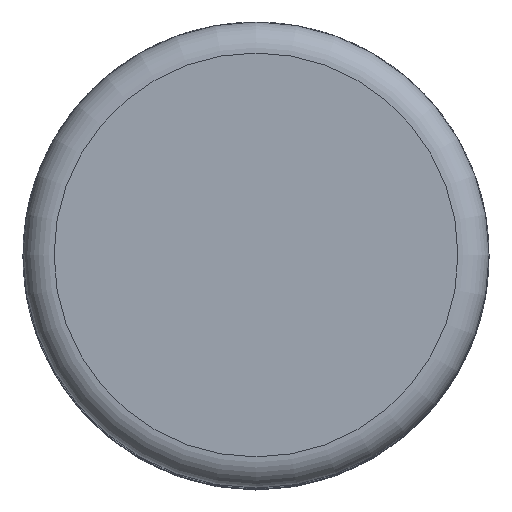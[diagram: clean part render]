
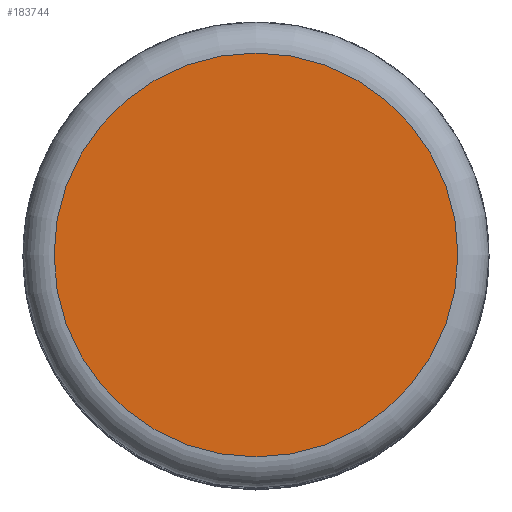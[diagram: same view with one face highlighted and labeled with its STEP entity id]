
A CAD part, top view. The second image highlights one B-rep face of the part: STEP entity #183744.
In plain terms, the highlighted planar face has unit normal (0, 0, 1).
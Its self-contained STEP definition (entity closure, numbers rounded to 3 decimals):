
#183585 = TOROIDAL_SURFACE('',#183586,5.2,0.8);
#183586 = AXIS2_PLACEMENT_3D('',#183587,#183588,#183589);
#183587 = CARTESIAN_POINT('',(0.,0.,29.2));
#183588 = DIRECTION('',(0.,0.,1.));
#183589 = DIRECTION('',(1.,0.,-0.));
#183695 = VERTEX_POINT('',#183696);
#183696 = CARTESIAN_POINT('',(5.2,0.,30.));
#183718 = EDGE_CURVE('',#183695,#183695,#183719,.T.);
#183719 = SURFACE_CURVE('',#183720,(#183725,#183732),.PCURVE_S1.);
#183720 = CIRCLE('',#183721,5.2);
#183721 = AXIS2_PLACEMENT_3D('',#183722,#183723,#183724);
#183722 = CARTESIAN_POINT('',(0.,0.,30.));
#183723 = DIRECTION('',(0.,0.,1.));
#183724 = DIRECTION('',(1.,0.,-0.));
#183725 = PCURVE('',#183585,#183726);
#183726 = DEFINITIONAL_REPRESENTATION('',(#183727),#183731);
#183727 = LINE('',#183728,#183729);
#183728 = CARTESIAN_POINT('',(0.,1.571));
#183729 = VECTOR('',#183730,1.);
#183730 = DIRECTION('',(1.,0.));
#183731 = ( GEOMETRIC_REPRESENTATION_CONTEXT(2) 
PARAMETRIC_REPRESENTATION_CONTEXT() REPRESENTATION_CONTEXT('2D SPACE',''
  ) );
#183732 = PCURVE('',#183733,#183738);
#183733 = PLANE('',#183734);
#183734 = AXIS2_PLACEMENT_3D('',#183735,#183736,#183737);
#183735 = CARTESIAN_POINT('',(0.,0.,30.));
#183736 = DIRECTION('',(0.,0.,1.));
#183737 = DIRECTION('',(1.,0.,-0.));
#183738 = DEFINITIONAL_REPRESENTATION('',(#183739),#183743);
#183739 = CIRCLE('',#183740,5.2);
#183740 = AXIS2_PLACEMENT_2D('',#183741,#183742);
#183741 = CARTESIAN_POINT('',(0.,0.));
#183742 = DIRECTION('',(1.,0.));
#183743 = ( GEOMETRIC_REPRESENTATION_CONTEXT(2) 
PARAMETRIC_REPRESENTATION_CONTEXT() REPRESENTATION_CONTEXT('2D SPACE',''
  ) );
#183744 = ADVANCED_FACE('',(#183745),#183733,.T.);
#183745 = FACE_BOUND('',#183746,.T.);
#183746 = EDGE_LOOP('',(#183747));
#183747 = ORIENTED_EDGE('',*,*,#183718,.T.);
